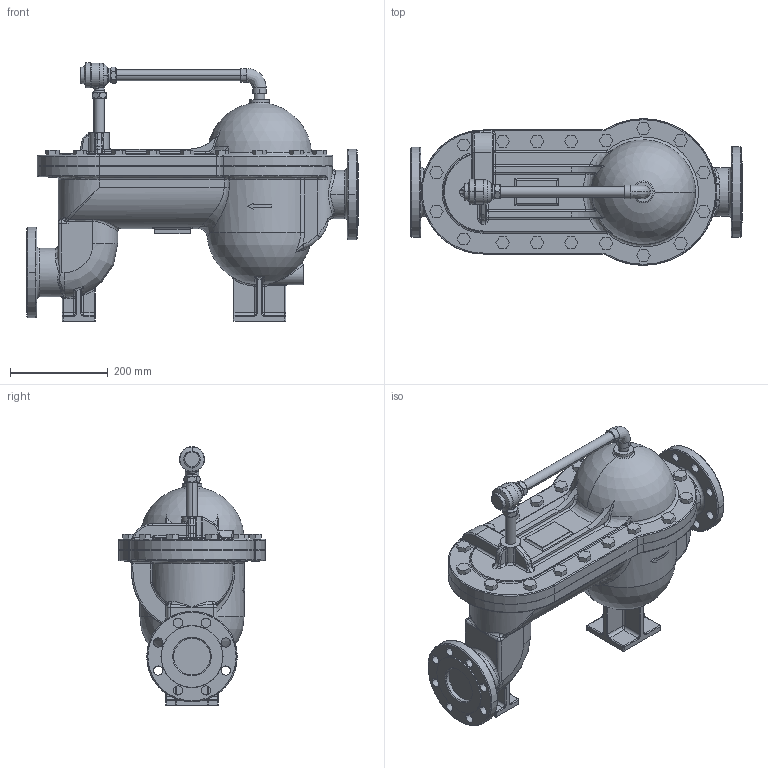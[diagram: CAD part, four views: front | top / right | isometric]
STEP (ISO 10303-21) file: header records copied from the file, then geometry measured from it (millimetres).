
FILE_DESCRIPTION( (''), '2;1');
FILE_NAME ('PC1027.12188.TF-1 80A_9229.stp','2025-07-31T17:01:24',(''),(''),'spGate 20.6.3 (****-****-****-****)','','');
FILE_SCHEMA (('AUTOMOTIVE_DESIGN'));
Length unit declared in the file: millimetre
Bounding box: 680 x 300 x 530 mm (x, y, z)
Volume: 25285503.5 mm3; surface area: 927645.3 mm2
Topology: 1 solids, 1 shells, 941 faces, 2293 edges, 1347 vertices
Faces by surface type: bspline 350, cylinder 279, plane 278, sphere 34
Entity records: 53658 total; most frequent: CARTESIAN_POINT 15731, ORIENTED_EDGE 4466, DIRECTION 3714, COLOUR_RGB 3175, PRESENTATION_STYLE_ASSIGNMENT 3175, STYLED_ITEM 3175, EDGE_CURVE 2233, DRAUGHTING_PRE_DEFINED_CURVE_FONT 2233
